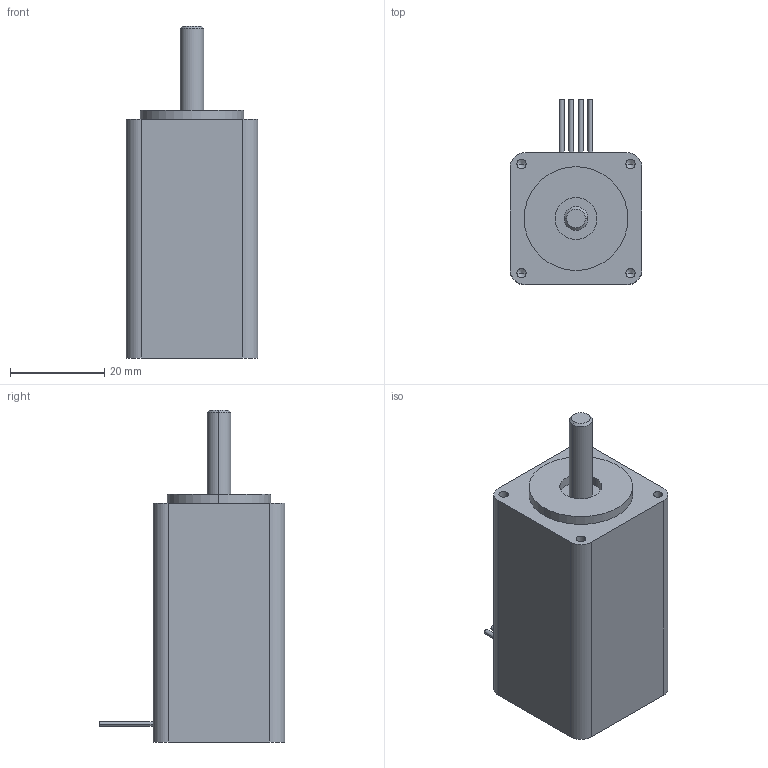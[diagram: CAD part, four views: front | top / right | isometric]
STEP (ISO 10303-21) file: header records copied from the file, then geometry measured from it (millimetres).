
FILE_DESCRIPTION((''),'2;1');
FILE_NAME('C:\Documents and Settings\rbadgerow\Desktop\webmodelmain\web step 3d\211-20 052605\211-20 s.stp','2005-05-27T09:49:34',('rbadgerow'),(''),'Autodesk Inventor 9','Autodesk Inventor 9','');
FILE_SCHEMA(('AUTOMOTIVE_DESIGN { 1 0 10303 214 1 1 1 1 }'));
Length unit declared in the file: inch
Products named in the file (1): 211-20 s
Bounding box: 27.94 x 39.37 x 70.36 mm (x, y, z)
Volume: 40026.1 mm3; surface area: 7650.3 mm2
Topology: 1 solids, 1 shells, 52 faces, 116 edges, 70 vertices
Faces by surface type: cylinder 20, bspline 16, plane 14, cone 2
Entity records: 1635 total; most frequent: CARTESIAN_POINT 503, DIRECTION 240, ORIENTED_EDGE 216, EDGE_CURVE 108, AXIS2_PLACEMENT_3D 95, VERTEX_POINT 70, EDGE_LOOP 64, CIRCLE 58
